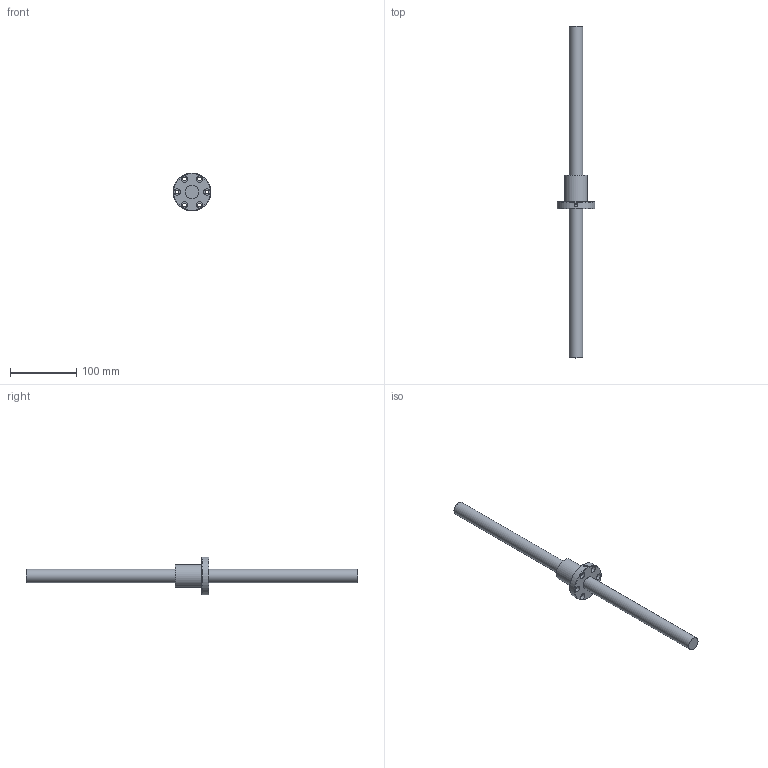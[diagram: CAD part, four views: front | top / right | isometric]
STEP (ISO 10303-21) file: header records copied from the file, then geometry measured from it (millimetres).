
FILE_DESCRIPTION (( 'STEP AP203' ), '1' );
FILE_NAME ('SFNI2005.STEP', '2023-06-05T02:24:29', ( '' ), ( '' ), 'SwSTEP 2.0', 'SolidWorks 2022', '' );
FILE_SCHEMA (( 'CONFIG_CONTROL_DESIGN' ));
Length unit declared in the file: millimetre
Products named in the file (1): SFNI2005
Bounding box: 57 x 500 x 57 mm (x, y, z)
Volume: 202186.7 mm3; surface area: 47332 mm2
Topology: 2 solids, 2 shells, 33 faces, 64 edges, 42 vertices
Faces by surface type: cylinder 18, plane 12, torus 3
Full cylindrical faces by diameter (mm): 4 x1, 5 x1, 5.5 x6, 9.5 x6, 20 x2, 34 x1, 57 x1
Entity records: 1088 total; most frequent: CARTESIAN_POINT 375, DIRECTION 142, EDGE_LOOP 78, ORIENTED_EDGE 78, AXIS2_PLACEMENT_3D 71, FACE_OUTER_BOUND 54, EDGE_CURVE 39, VERTEX_POINT 39
